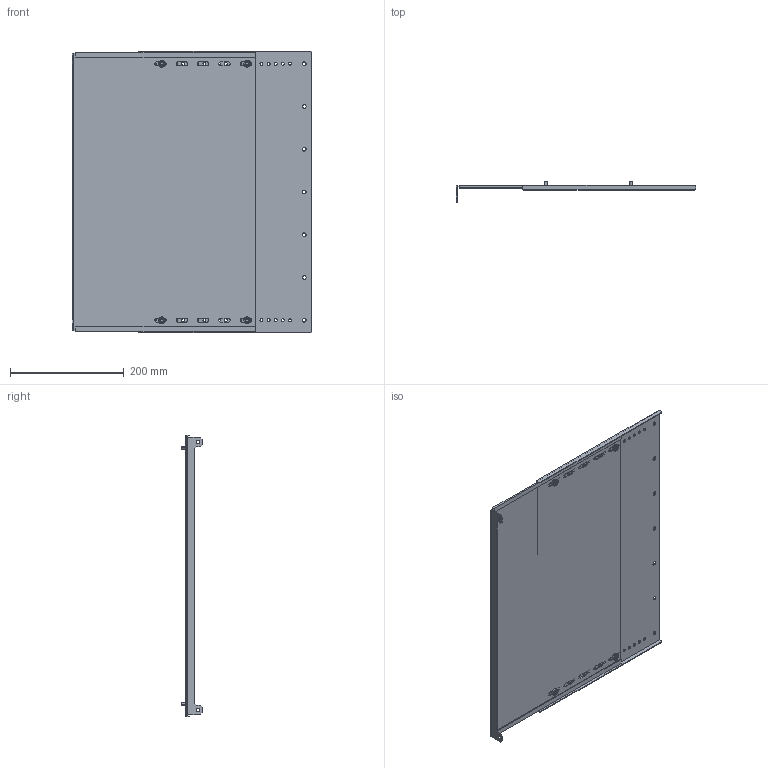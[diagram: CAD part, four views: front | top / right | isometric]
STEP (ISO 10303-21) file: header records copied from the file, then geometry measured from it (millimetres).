
FILE_DESCRIPTION (( 'STEP AP214' ), '1' );
FILE_NAME ('FO-00-SWVB-050-040 Ïåðåãîðîäêà ñåêöèîíèðîâàíèÿ âåðòèêàëüíàÿ äëÿ âåðòèêàëüíîãî øèííîãî îòñåêà 500õ400 ìì â øêàô ãëóáèíîé 800 ìì.STEP', '2025-08-08T07:53:28', ( '' ), ( '' ), 'SwSTEP 2.0', 'SolidWorks 2023', '' );
FILE_SCHEMA (( 'AUTOMOTIVE_DESIGN' ));
Length unit declared in the file: millimetre
Products named in the file (4): FO-00-SWVB-050-040 Перегородка секционирования вертикальная для вертикального шинного отсека 500х400 мм в шкаф глубиной 800 мм; Перегородка секционирования 500х400; Перегородка секционирования ап  500х400; Болты М5х500
Assembly tree (4 placements, depth 2):
  FO-00-SWVB-050-040 Перегородка секционирования вертикальная для вертикального шинного отсека 500х400 мм в шкаф глубиной 800 мм
    Перегородка секционирования 500х400
    Перегородка секционирования ап  500х400
    Болты М5х500  x2
Bounding box: 419.75 x 35.7 x 494.5 mm (x, y, z)
Volume: 485041.4 mm3; surface area: 643158.7 mm2
Topology: 6 solids, 6 shells, 306 faces, 834 edges, 548 vertices
Faces by surface type: cylinder 194, plane 88, torus 16, cone 8
Entity records: 8510 total; most frequent: DIRECTION 1538, CARTESIAN_POINT 1411, ORIENTED_EDGE 1392, EDGE_CURVE 696, AXIS2_PLACEMENT_3D 587, VERTEX_POINT 460, EDGE_LOOP 370, LINE 364
